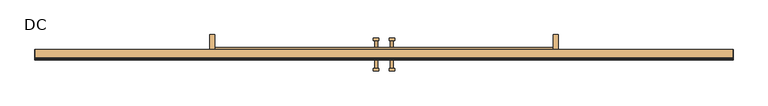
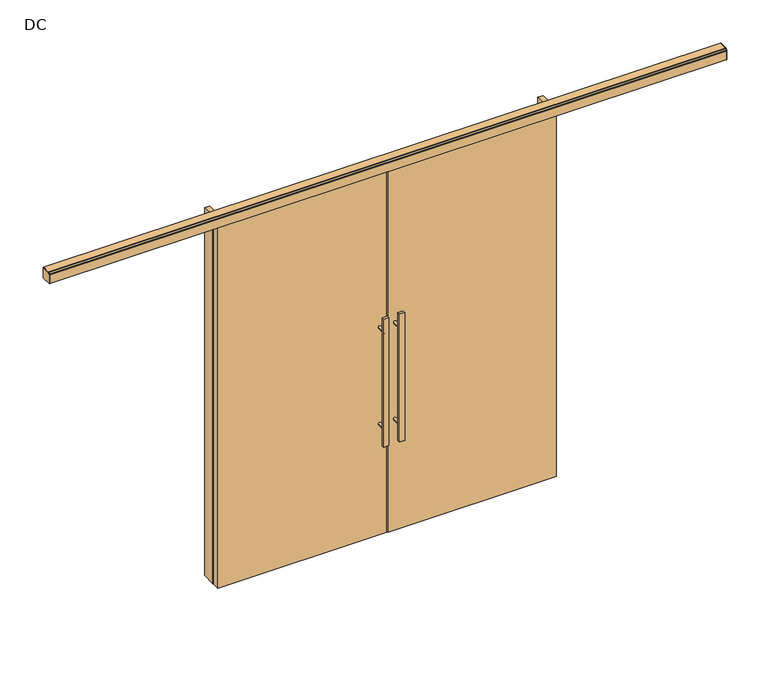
"""IFC4 building model written with IfcOpenShell, lengths in millimetres: door geometry, Mobiliário_Mobiliário de Escritório_Porta Dupla de Correr Cega - DC_Marelli : DC."""

from ifc_helpers import new_model, si_unit, point, frame, frame_2d, origin, origin_with_axes, place, context, project, spatial, polyline, circle_curve, trimmed, segment, composite_curve, outline, extrude, source, transform, mapped, element, save


def dc_4052c871(model_context):
    return source(origin(), model_context, "Body", "SweptSolid", [
        extrude(outline(polyline([(1345.5735443, -108.0), (1345.5735443, -150.0), (348.5735443, -150.0), (348.5735443, -108.0), (1345.5735443, -108.0)])), frame((0.0, 0.0, 2.0), z_axis=(0.0, 0.0, 1.0), x_axis=(1.0, 0.0, 0.0)), (0.0, 0.0, 1.0), 2278.0),
        extrude(outline(polyline([(348.5735443, -15.0), (378.5735443, -15.0), (378.5735443, -100.0), (348.5735443, -100.0), (348.5735443, -15.0)])), origin_with_axes(), (0.0, 0.0, 1.0), 2300.0),
        extrude(outline(polyline([(2348.5735443, -15.0), (2348.5735443, -100.0), (2318.5735443, -100.0), (2318.5735443, -15.0), (2348.5735443, -15.0)])), origin_with_axes(), (0.0, 0.0, 1.0), 2300.0),
        extrude(outline(polyline([(1287.4735443, -223.7), (1287.4735443, -208.7), (1317.4735443, -208.7), (1317.4735443, -223.7), (1287.4735443, -223.7)])), frame((0.0, 0.0, 600.0), z_axis=(0.0, 0.0, 1.0), x_axis=(1.0, 0.0, 0.0)), (0.0, 0.0, 1.0), 800.0),
        extrude(outline(composite_curve([segment(trimmed(circle_curve(frame_2d((698.0, 1303.6014077)), 8.0), [point((698.0, 1295.6014077))], [point((698.0, 1311.6014077))], False, "CARTESIAN"), True, "CONTINUOUS"), segment(trimmed(circle_curve(frame_2d((698.0, 1303.6014077)), 8.0), [point((698.0, 1311.6014077))], [point((698.0, 1295.6014077))], False, "CARTESIAN"), True, "CONTINUOUS")], self_intersect=False)), frame((0.0, -208.7, 0.0), z_axis=(0.0, 1.0, 0.0), x_axis=(0.0, 0.0, 1.0)), (0.0, 0.0, 1.0), 58.7),
        extrude(outline(composite_curve([segment(trimmed(circle_curve(frame_2d((1302.0, 1303.6014077)), 8.0), [point((1302.0, 1295.6014077))], [point((1302.0, 1311.6014077))], False, "CARTESIAN"), True, "CONTINUOUS"), segment(trimmed(circle_curve(frame_2d((1302.0, 1303.6014077)), 8.0), [point((1302.0, 1311.6014077))], [point((1302.0, 1295.6014077))], False, "CARTESIAN"), True, "CONTINUOUS")], self_intersect=False)), frame((0.0, -208.7, 0.0), z_axis=(0.0, 1.0, 0.0), x_axis=(0.0, 0.0, 1.0)), (0.0, 0.0, 1.0), 58.7),
        extrude(outline(polyline([(1287.4735443, -34.3), (1317.4735443, -34.3), (1317.4735443, -49.3), (1287.4735443, -49.3), (1287.4735443, -34.3)])), frame((0.0, 0.0, 600.0), z_axis=(0.0, 0.0, 1.0), x_axis=(1.0, 0.0, 0.0)), (0.0, 0.0, 1.0), 800.0),
        extrude(outline(composite_curve([segment(trimmed(circle_curve(frame_2d((698.0, 1303.6014077)), 8.0), [point((698.0, 1295.6014077))], [point((698.0, 1311.6014077))], False, "CARTESIAN"), True, "CONTINUOUS"), segment(trimmed(circle_curve(frame_2d((698.0, 1303.6014077)), 8.0), [point((698.0, 1311.6014077))], [point((698.0, 1295.6014077))], False, "CARTESIAN"), True, "CONTINUOUS")], self_intersect=False)), frame((0.0, -108.0, 0.0), z_axis=(0.0, 1.0, 0.0), x_axis=(0.0, 0.0, 1.0)), (0.0, 0.0, 1.0), 58.7),
        extrude(outline(composite_curve([segment(trimmed(circle_curve(frame_2d((1302.0, 1303.6014077)), 8.0), [point((1302.0, 1295.6014077))], [point((1302.0, 1311.6014077))], False, "CARTESIAN"), True, "CONTINUOUS"), segment(trimmed(circle_curve(frame_2d((1302.0, 1303.6014077)), 8.0), [point((1302.0, 1311.6014077))], [point((1302.0, 1295.6014077))], False, "CARTESIAN"), True, "CONTINUOUS")], self_intersect=False)), frame((0.0, -108.0, 0.0), z_axis=(0.0, 1.0, 0.0), x_axis=(0.0, 0.0, 1.0)), (0.0, 0.0, 1.0), 58.7),
        extrude(outline(polyline([(1351.5735443, -108.0), (2348.5735443, -108.0), (2348.5735443, -150.0), (1351.5735443, -150.0), (1351.5735443, -108.0)])), frame((0.0, 0.0, 2.0), z_axis=(0.0, 0.0, 1.0), x_axis=(1.0, 0.0, 0.0)), (0.0, 0.0, 1.0), 2278.0),
        extrude(outline(polyline([(1409.6735443, -223.7), (1379.6735443, -223.7), (1379.6735443, -208.7), (1409.6735443, -208.7), (1409.6735443, -223.7)])), frame((0.0, 0.0, 600.0), z_axis=(0.0, 0.0, 1.0), x_axis=(1.0, 0.0, 0.0)), (0.0, 0.0, 1.0), 800.0),
        extrude(outline(composite_curve([segment(trimmed(circle_curve(frame_2d((698.0, 1393.545681)), 8.0), [point((698.0, 1401.545681))], [point((698.0, 1385.545681))], False, "CARTESIAN"), True, "CONTINUOUS"), segment(trimmed(circle_curve(frame_2d((698.0, 1393.545681)), 8.0), [point((698.0, 1385.545681))], [point((698.0, 1401.545681))], False, "CARTESIAN"), True, "CONTINUOUS")], self_intersect=False)), frame((0.0, -208.7, 0.0), z_axis=(0.0, 1.0, 0.0), x_axis=(0.0, 0.0, 1.0)), (0.0, 0.0, 1.0), 58.7),
        extrude(outline(composite_curve([segment(trimmed(circle_curve(frame_2d((1302.0, 1393.545681)), 8.0), [point((1302.0, 1401.545681))], [point((1302.0, 1385.545681))], False, "CARTESIAN"), True, "CONTINUOUS"), segment(trimmed(circle_curve(frame_2d((1302.0, 1393.545681)), 8.0), [point((1302.0, 1385.545681))], [point((1302.0, 1401.545681))], False, "CARTESIAN"), True, "CONTINUOUS")], self_intersect=False)), frame((0.0, -208.7, 0.0), z_axis=(0.0, 1.0, 0.0), x_axis=(0.0, 0.0, 1.0)), (0.0, 0.0, 1.0), 58.7),
        extrude(outline(polyline([(1409.6735443, -34.3), (1409.6735443, -49.3), (1379.6735443, -49.3), (1379.6735443, -34.3), (1409.6735443, -34.3)])), frame((0.0, 0.0, 600.0), z_axis=(0.0, 0.0, 1.0), x_axis=(1.0, 0.0, 0.0)), (0.0, 0.0, 1.0), 800.0),
        extrude(outline(composite_curve([segment(trimmed(circle_curve(frame_2d((698.0, 1393.545681)), 8.0), [point((698.0, 1401.545681))], [point((698.0, 1385.545681))], False, "CARTESIAN"), True, "CONTINUOUS"), segment(trimmed(circle_curve(frame_2d((698.0, 1393.545681)), 8.0), [point((698.0, 1385.545681))], [point((698.0, 1401.545681))], False, "CARTESIAN"), True, "CONTINUOUS")], self_intersect=False)), frame((0.0, -108.0, 0.0), z_axis=(0.0, 1.0, 0.0), x_axis=(0.0, 0.0, 1.0)), (0.0, 0.0, 1.0), 58.7),
        extrude(outline(composite_curve([segment(trimmed(circle_curve(frame_2d((1302.0, 1393.545681)), 8.0), [point((1302.0, 1401.545681))], [point((1302.0, 1385.545681))], False, "CARTESIAN"), True, "CONTINUOUS"), segment(trimmed(circle_curve(frame_2d((1302.0, 1393.545681)), 8.0), [point((1302.0, 1385.545681))], [point((1302.0, 1401.545681))], False, "CARTESIAN"), True, "CONTINUOUS")], self_intersect=False)), frame((0.0, -108.0, 0.0), z_axis=(0.0, 1.0, 0.0), x_axis=(0.0, 0.0, 1.0)), (0.0, 0.0, 1.0), 58.7),
        extrude(outline(polyline([(2318.5735443, -90.0), (2318.5735443, -100.0), (378.5735443, -100.0), (378.5735443, -90.0), (2318.5735443, -90.0)])), frame((0.0, 0.0, 2270.0), z_axis=(0.0, 0.0, 1.0), x_axis=(1.0, 0.0, 0.0)), (0.0, 0.0, 1.0), 30.0),
        extrude(outline(composite_curve([segment(polyline([(-100.0, 2280.0), (-103.7, 2280.0), (-103.7, 2288.4), (-118.3, 2288.4), (-118.3, 2316.9), (-142.2, 2316.9), (-142.2, 2288.4), (-156.1, 2288.4), (-156.1, 2264.2), (-161.3, 2264.2), (-161.3, 2316.3833057)]), True, "CONTINUOUS"), segment(trimmed(circle_curve(frame_2d((-154.7488615, 2316.4864296)), 6.5519502), [point((-161.3, 2316.3833057))], [point((-159.3082964, 2321.1917036))], False, "CARTESIAN"), True, "CONTINUOUS"), segment(polyline([(-159.3082964, 2321.1917036), (-153.2917036, 2327.2082964)]), True, "CONTINUOUS"), segment(trimmed(circle_curve(frame_2d((-148.5864296, 2322.6488615)), 6.5519502), [point((-153.2917036, 2327.2082964))], [point((-148.4833057, 2329.2))], False, "CARTESIAN"), True, "CONTINUOUS"), segment(polyline([(-148.4833057, 2329.2), (-100.0, 2329.2), (-100.0, 2280.0)]), True, "CONTINUOUS")], self_intersect=False)), frame((-651.4264557, 0.0, 0.0), z_axis=(1.0, 0.0, 0.0), x_axis=(0.0, 1.0, 0.0)), (0.0, 0.0, 1.0), 4000.0),
        extrude(outline(composite_curve([segment(polyline([(-100.0, 2264.2), (-161.3, 2264.2), (-161.3, 2316.3833057)]), True, "CONTINUOUS"), segment(trimmed(circle_curve(frame_2d((-154.7488615, 2316.4864296)), 6.5519502), [point((-161.3, 2316.3833057))], [point((-159.3082964, 2321.1917036))], False, "CARTESIAN"), True, "CONTINUOUS"), segment(polyline([(-159.3082964, 2321.1917036), (-153.2917036, 2327.2082964)]), True, "CONTINUOUS"), segment(trimmed(circle_curve(frame_2d((-148.5864296, 2322.6488615)), 6.5519502), [point((-153.2917036, 2327.2082964))], [point((-148.4833057, 2329.2))], False, "CARTESIAN"), True, "CONTINUOUS"), segment(polyline([(-148.4833057, 2329.2), (-100.0, 2329.2), (-100.0, 2264.2)]), True, "CONTINUOUS")], self_intersect=False)), frame((-654.4264557, 0.0, 0.0), z_axis=(1.0, 0.0, 0.0), x_axis=(0.0, 1.0, 0.0)), (0.0, 0.0, 1.0), 3.0),
        extrude(outline(composite_curve([segment(polyline([(-100.0, 2264.2), (-161.3, 2264.2), (-161.3, 2316.3833057)]), True, "CONTINUOUS"), segment(trimmed(circle_curve(frame_2d((-154.7488615, 2316.4864296)), 6.5519502), [point((-161.3, 2316.3833057))], [point((-159.3082964, 2321.1917036))], False, "CARTESIAN"), True, "CONTINUOUS"), segment(polyline([(-159.3082964, 2321.1917036), (-153.2917036, 2327.2082964)]), True, "CONTINUOUS"), segment(trimmed(circle_curve(frame_2d((-148.5864296, 2322.6488615)), 6.5519502), [point((-153.2917036, 2327.2082964))], [point((-148.4833057, 2329.2))], False, "CARTESIAN"), True, "CONTINUOUS"), segment(polyline([(-148.4833057, 2329.2), (-100.0, 2329.2), (-100.0, 2264.2)]), True, "CONTINUOUS")], self_intersect=False)), frame((3348.5735443, 0.0, 0.0), z_axis=(1.0, 0.0, 0.0), x_axis=(0.0, 1.0, 0.0)), (0.0, 0.0, 1.0), 3.0),
    ])


if __name__ == "__main__":
    model = new_model("IFC4")
    model_context = context("Model", 3, world=origin())
    ifc_project = project(units=[si_unit("LENGTHUNIT", "METRE", prefix="MILLI")], contexts=[model_context])
    site = spatial("IfcSite", under=ifc_project)
    building = spatial("IfcBuilding", under=site)
    placement = place(None, origin())
    dc_shape = dc_4052c871(model_context)
    element("IfcDoor", 1, ObjectType="Mobiliário_Mobiliário de Escritório_Porta Dupla de Correr Cega - DC_Marelli : DC", at=placement, inside=building, context=model_context, shape_type="MappedRepresentation", body=[
        mapped(dc_shape, transform((0.0, 0.0, 0.0), x_axis=(1.0, 0.0, 0.0), y_axis=(0.0, 1.0, 0.0), z_axis=(0.0, 0.0, 1.0))),
    ])
    save(model, "model.ifc")
